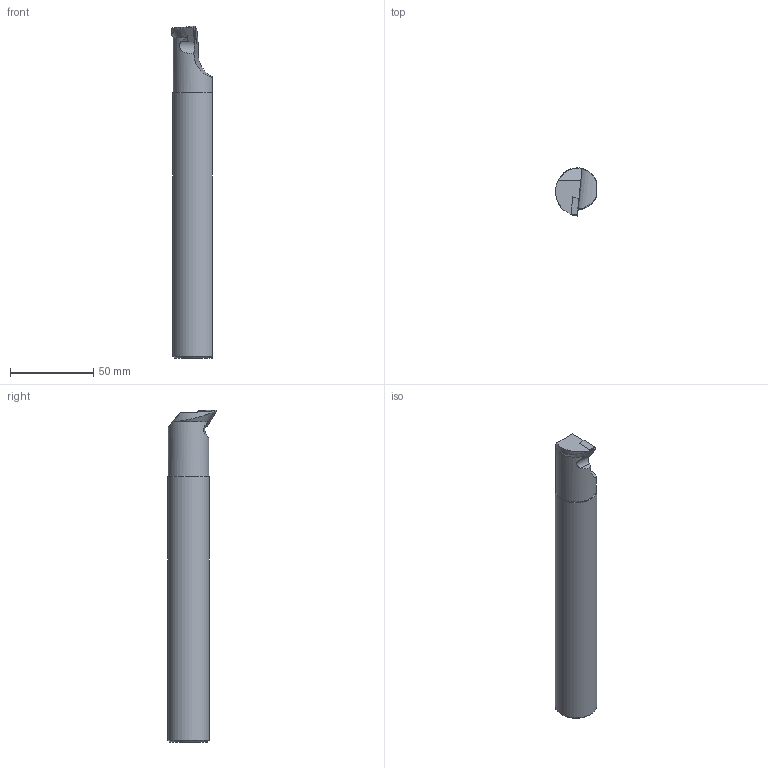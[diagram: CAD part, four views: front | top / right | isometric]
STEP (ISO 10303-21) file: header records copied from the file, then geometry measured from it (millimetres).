
FILE_DESCRIPTION(/* description */ (''),/* implementation_level */ '2;1');
FILE_NAME(/* name */ 'A25R-SDUCR-11-HAAS.stp',/* time_stamp */ '2021-09-29T10:24:34+09:00',/* author */ (''),/* organization */ (''),/* preprocessor_version */ 'ST-DEVELOPER v15',/* originating_system */ 'SIEMENS PLM Software NX 8.5',/* authorisation */ '');
FILE_SCHEMA (('AP203_CONFIGURATION_CONTROLLED_3D_DESIGN_OF_MECHANICAL_PARTS_AND_ASSEMBLIES_MIM_LF { 1 0 10303 403 2 1 2}'));
Length unit declared in the file: millimetre
Products named in the file (1): user6E2824B868z7
Bounding box: 24.61 x 29.14 x 199.96 mm (x, y, z)
Volume: 85963.6 mm3; surface area: 19503.5 mm2
Topology: 2 solids, 2 shells, 26 faces, 62 edges, 41 vertices
Faces by surface type: plane 13, cylinder 6, cone 5, bspline 1, extrusion 1
Full cylindrical faces by diameter (mm): 6 x2
Entity records: 959 total; most frequent: CARTESIAN_POINT 282, ORIENTED_EDGE 118, DIRECTION 116, EDGE_CURVE 59, AXIS2_PLACEMENT_3D 44, VERTEX_POINT 40, EDGE_LOOP 31, VECTOR 28
